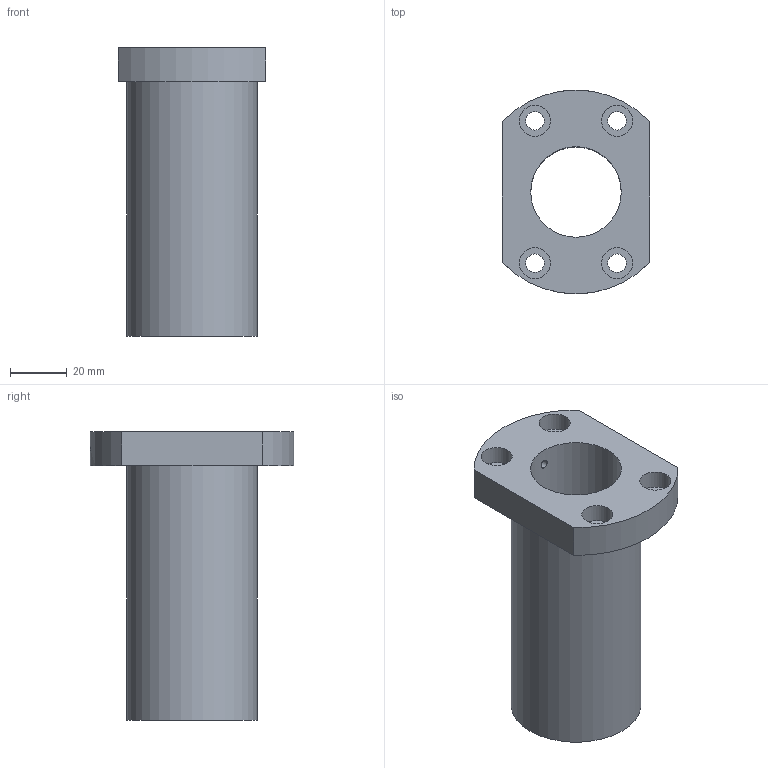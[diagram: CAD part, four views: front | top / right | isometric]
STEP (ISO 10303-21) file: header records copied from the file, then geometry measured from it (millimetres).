
FILE_DESCRIPTION(('FreeCAD Model'),'2;1');
FILE_NAME('Open CASCADE Shape Model','2025-05-05T10:23:58',('Author'),( ''),'Open CASCADE STEP processor 7.5','FreeCAD','Unknown');
FILE_SCHEMA(('AUTOMOTIVE_DESIGN { 1 0 10303 214 1 1 1 1 }'));
Length unit declared in the file: millimetre
Products named in the file (1): cgr324sfid2_38147-
Bounding box: 52 x 72 x 102 mm (x, y, z)
Volume: 104730.4 mm3; surface area: 32324.8 mm2
Topology: 1 solids, 1 shells, 29 faces, 60 edges, 39 vertices
Faces by surface type: cylinder 16, plane 10, cone 3
Full cylindrical faces by diameter (mm): 3 x1, 4.918 x2, 6 x1, 6.5 x4, 11 x4, 32 x1, 46 x1
Entity records: 2110 total; most frequent: CARTESIAN_POINT 808, DIRECTION 250, ORIENTED_EDGE 120, PCURVE 120, DEFINITIONAL_REPRESENTATION 120, LINE 112, VECTOR 112, AXIS2_PLACEMENT_3D 62
